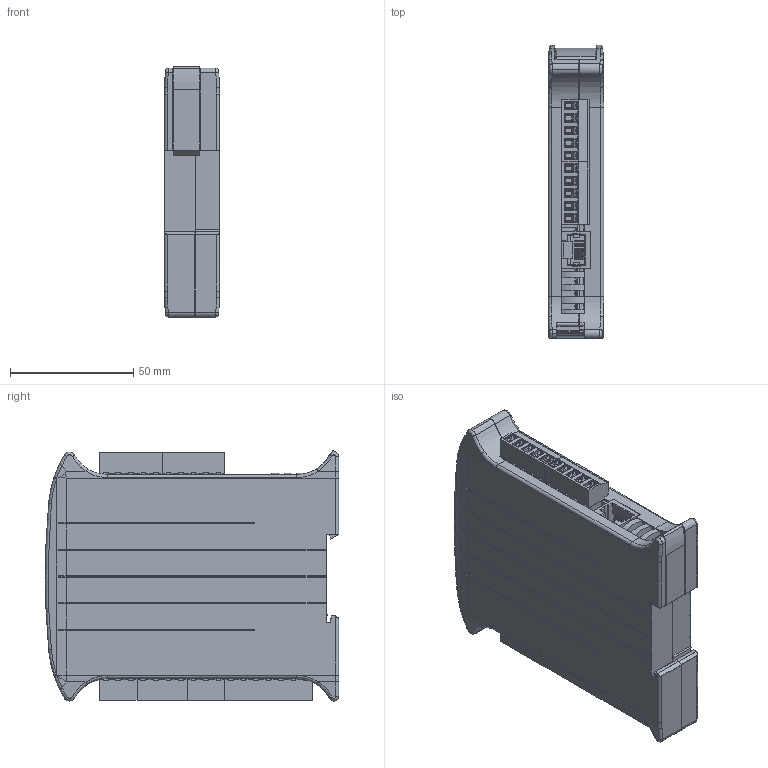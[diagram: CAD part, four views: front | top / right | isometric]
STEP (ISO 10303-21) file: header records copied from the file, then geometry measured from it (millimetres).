
FILE_DESCRIPTION (( 'STEP AP214' ), '1' );
FILE_NAME ('Messverstärker DAD141.1.STEP', '2026-03-20T11:27:36', ( '' ), ( '' ), 'SwSTEP 2.0', 'SolidWorks 2019', '' );
FILE_SCHEMA (( 'AUTOMOTIVE_DESIGN' ));
Length unit declared in the file: millimetre
Products named in the file (38): PORTELLINO_22_5; 7pol Stecker pxc_1900824_00_MC-1-5-7-ST1-5-08_3D; coperchio_10_rendering; 634108185521_Housing; 634108185521_Pin3; 3pol PCB pxc_1836192_04_MC-1-5-3-G-5-08_3D; 634108185521_Pin4; Messverstärker DAD141.1; Rj45 634108185521 (rev1); BASE_12_5_MM; 634108185521_Pin5; 634108185521_Pin7; MC_1_5-4-ST1-5_08; mc_1.5-5-st1-5.08_1; Gitter 21 mm; AGGANCIO_RAILBOX; 7pol PCB pxc_1836231_04_MC-1-5-7-G-5-08_3D; 634108185521_Pin; 634108185521_Housing2; 5pol PCB pxc_1836215_04_MC-1-5-5-G-5-08_3D; 634108185521_Pin2; 634108185521_Housing3; AT_MC_1_5_G_5_08.stp; 634108185521_Pin8; 3pol PCB pxc_1836192_04_MC-1-5-3-G-5-08_3D.stp; 4pol Stecker pxc_1900798_00_MC-1-5-4-ST1-5-08_3D; 3pol Stecker pxc_1900785_00_MC-1-5-3-ST1-5-08_3D; MC_1_5-3-ST1-5_08; 4pol PCB pxc_1836202_04_MC-1-5-4-G-5-08_3D; mc_1.5-7-st1-5.08; 634108185521_Pin6; LP_MC_1_5_G_3_4.stp; 634108185521_Pin1; 5pol Stecker pxc_1900808_00_MC-1-5-5-ST1-5-08_3D; DAD Platine
Assembly tree (47 placements, depth 4):
  Messverstärker DAD141.1
    PORTELLINO_22_5
    BASE_12_5_MM
    AGGANCIO_RAILBOX
    coperchio_10_rendering
    DAD Platine
    5pol PCB pxc_1836215_04_MC-1-5-5-G-5-08_3D  x2
    3pol PCB pxc_1836192_04_MC-1-5-3-G-5-08_3D
      3pol PCB pxc_1836192_04_MC-1-5-3-G-5-08_3D.stp
        LP_MC_1_5_G_3_4.stp  x3
        AT_MC_1_5_G_5_08.stp
    3pol PCB pxc_1836192_04_MC-1-5-3-G-5-08_3D
      3pol PCB pxc_1836192_04_MC-1-5-3-G-5-08_3D.stp
        LP_MC_1_5_G_3_4.stp  x3
        AT_MC_1_5_G_5_08.stp
    4pol PCB pxc_1836202_04_MC-1-5-4-G-5-08_3D
    7pol PCB pxc_1836231_04_MC-1-5-7-G-5-08_3D
    3pol Stecker pxc_1900785_00_MC-1-5-3-ST1-5-08_3D
      MC_1_5-3-ST1-5_08
    4pol Stecker pxc_1900798_00_MC-1-5-4-ST1-5-08_3D
      MC_1_5-4-ST1-5_08
    3pol Stecker pxc_1900785_00_MC-1-5-3-ST1-5-08_3D
      MC_1_5-3-ST1-5_08
    7pol Stecker pxc_1900824_00_MC-1-5-7-ST1-5-08_3D
      mc_1.5-7-st1-5.08
    5pol Stecker pxc_1900808_00_MC-1-5-5-ST1-5-08_3D
      mc_1.5-5-st1-5.08_1
    Rj45 634108185521 (rev1)
      634108185521_Housing
      634108185521_Housing2
      634108185521_Housing3
      634108185521_Pin1
      634108185521_Pin8
      634108185521_Pin2
      634108185521_Pin7
      634108185521_Pin3
      634108185521_Pin6
      634108185521_Pin4
      634108185521_Pin5
      634108185521_Pin  x2
    Gitter 21 mm
    mc_1.5-5-st1-5.08_1
Bounding box: 22.5 x 118.98 x 101.45 mm (x, y, z)
Volume: 84093.2 mm3; surface area: 98361.6 mm2
Topology: 37 solids, 37 shells, 6592 faces, 17593 edges, 11358 vertices
Faces by surface type: plane 4548, cylinder 1529, bspline 302, sphere 96, cone 93, torus 24
Entity records: 168475 total; most frequent: CARTESIAN_POINT 38070, ORIENTED_EDGE 25272, DIRECTION 22927, EDGE_CURVE 12636, LINE 9223, VECTOR 9223, VERTEX_POINT 8172, AXIS2_PLACEMENT_3D 6852
